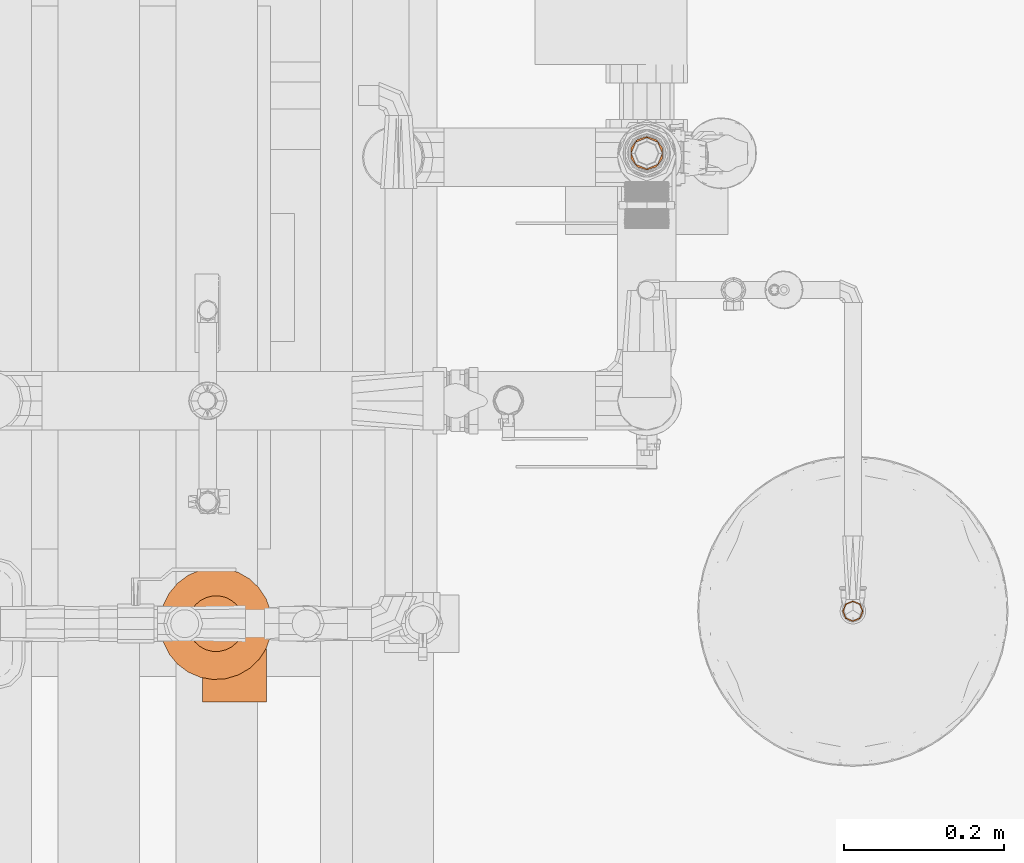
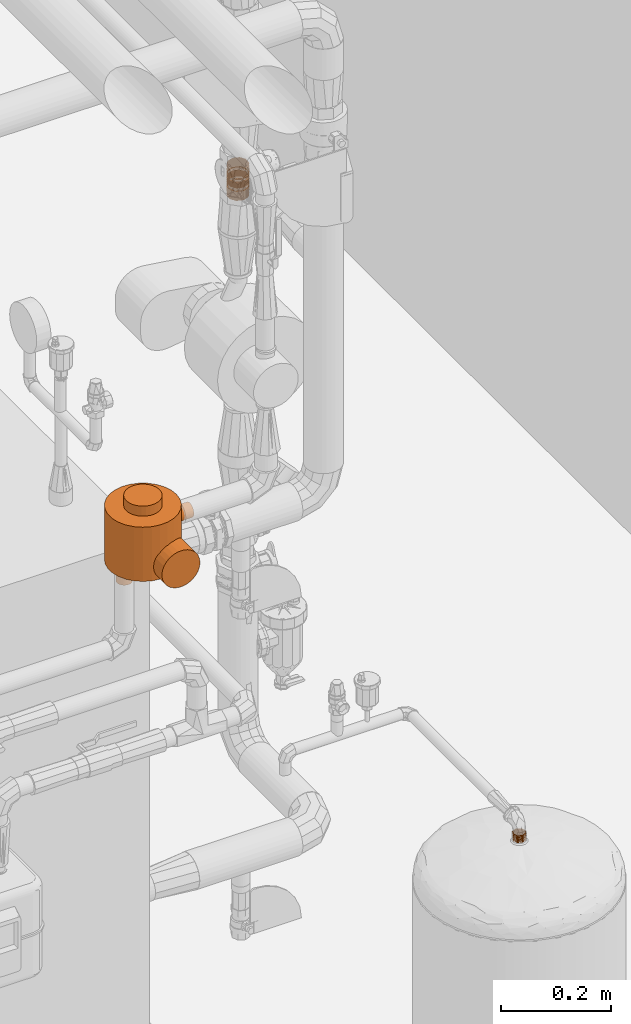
# One storey, part 41 of 43: 106 proxies.
"""IFC2X3 building model written with IfcOpenShell, lengths in millimetres."""

from ifc_helpers import new_model, entity, si_unit, converted_unit, derived_unit, direction, frame, frame_2d, origin, place, context, subcontext, project, spatial, circle, extrude, faceted_brep, source, transform, mapped, material, material_list, type_object, type_shapes, element, save


model = new_model("IFC2X3")

# Units and contexts
model_context = context("Model", 3, precision=0.01, world=origin(), true_north=direction((6.123031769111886e-17, 1.0)))
body_context = subcontext(model_context, "Body", "Model", "MODEL_VIEW")
ifc_project = project(units=[si_unit("LENGTHUNIT", "METRE", prefix="MILLI"), si_unit("AREAUNIT", "SQUARE_METRE"), si_unit("VOLUMEUNIT", "CUBIC_METRE"), converted_unit("PLANEANGLEUNIT", "DEGREE", entity("IfcRatioMeasure", 0.017453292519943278), si_unit("PLANEANGLEUNIT", "RADIAN"), dimensions=[0, 0, 0, 0, 0, 0, 0]), si_unit("MASSUNIT", "GRAM", prefix="KILO"), derived_unit("MASSDENSITYUNIT", [(si_unit("MASSUNIT", "GRAM", prefix="KILO"), 1), (si_unit("LENGTHUNIT", "METRE"), -3)]), derived_unit("MOMENTOFINERTIAUNIT", [(si_unit("LENGTHUNIT", "METRE"), 4)]), si_unit("TIMEUNIT", "SECOND"), si_unit("FREQUENCYUNIT", "HERTZ"), si_unit("THERMODYNAMICTEMPERATUREUNIT", "DEGREE_CELSIUS"), derived_unit("THERMALTRANSMITTANCEUNIT", [(si_unit("MASSUNIT", "GRAM", prefix="KILO"), 1), (si_unit("THERMODYNAMICTEMPERATUREUNIT", "KELVIN"), -1), (si_unit("TIMEUNIT", "SECOND"), -3)]), derived_unit("VOLUMETRICFLOWRATEUNIT", [(si_unit("LENGTHUNIT", "METRE"), 3), (si_unit("TIMEUNIT", "SECOND"), -1)]), derived_unit("MASSFLOWRATEUNIT", [(si_unit("MASSUNIT", "GRAM", prefix="KILO"), 1), (si_unit("TIMEUNIT", "SECOND"), -1)]), derived_unit("ROTATIONALFREQUENCYUNIT", [(si_unit("TIMEUNIT", "SECOND"), -1)]), si_unit("ELECTRICCURRENTUNIT", "AMPERE"), si_unit("ELECTRICVOLTAGEUNIT", "VOLT"), si_unit("POWERUNIT", "WATT"), si_unit("FORCEUNIT", "NEWTON", prefix="KILO"), si_unit("ILLUMINANCEUNIT", "LUX"), si_unit("LUMINOUSFLUXUNIT", "LUMEN"), si_unit("LUMINOUSINTENSITYUNIT", "CANDELA"), derived_unit("USERDEFINED", [(si_unit("MASSUNIT", "GRAM", prefix="KILO"), -1), (si_unit("LENGTHUNIT", "METRE"), -2), (si_unit("TIMEUNIT", "SECOND"), 3), (si_unit("LUMINOUSFLUXUNIT", "LUMEN"), 1)]), derived_unit("SOUNDPOWERUNIT", [(si_unit("MASSUNIT", "GRAM", prefix="KILO"), 1), (si_unit("LENGTHUNIT", "METRE"), 2), (si_unit("TIMEUNIT", "SECOND"), -3)]), derived_unit("SOUNDPRESSUREUNIT", [(si_unit("MASSUNIT", "GRAM", prefix="KILO"), 1), (si_unit("LENGTHUNIT", "METRE"), -1), (si_unit("TIMEUNIT", "SECOND"), -2)]), derived_unit("LINEARVELOCITYUNIT", [(si_unit("LENGTHUNIT", "METRE"), 1), (si_unit("TIMEUNIT", "SECOND"), -1)]), si_unit("PRESSUREUNIT", "PASCAL"), derived_unit("USERDEFINED", [(si_unit("LENGTHUNIT", "METRE"), -2), (si_unit("MASSUNIT", "GRAM", prefix="KILO"), 1), (si_unit("TIMEUNIT", "SECOND"), -2)]), derived_unit("LINEARFORCEUNIT", [(si_unit("MASSUNIT", "GRAM", prefix="KILO"), 1), (si_unit("LENGTHUNIT", "METRE"), 1), (si_unit("TIMEUNIT", "SECOND"), -2), (si_unit("LENGTHUNIT", "METRE"), -1)]), derived_unit("PLANARFORCEUNIT", [(si_unit("MASSUNIT", "GRAM", prefix="KILO"), 1), (si_unit("LENGTHUNIT", "METRE"), 1), (si_unit("TIMEUNIT", "SECOND"), -2), (si_unit("LENGTHUNIT", "METRE"), -2)])], contexts=[model_context])

# Site, building, storey
site_placement = place(None, origin())
site = spatial("IfcSite", under=ifc_project, at=site_placement, Name="Default", CompositionType="ELEMENT")
building_placement = place(site_placement, origin())
building = spatial("IfcBuilding", under=site, at=building_placement, CompositionType="ELEMENT")
storey_placement = place(building_placement, frame((0.0, 0.0, 270.0)))
storey = spatial("IfcBuildingStorey", under=building, at=storey_placement, Name="Niveau 0", CompositionType="ELEMENT", Elevation=270.0)

# Proxies
ifc_material_1 = material(Name="Copper Conex")
building_element_proxy_type_1 = type_object("IfcBuildingElementProxyType", Name="Male:Male", PredefinedType="NOTDEFINED", material=ifc_material_1)
shared_shape_1 = source(origin(), body_context, "Body", "Brep", [
    faceted_brep([(0.0, 12.317039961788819, -16.952951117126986), (0.907000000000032, 13.706579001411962, -13.706579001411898), (0.907000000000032, 10.27993425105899, -15.125941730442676), (0.907000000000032, 10.279934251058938, 15.125941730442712), (0.907000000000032, 13.706579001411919, 13.706579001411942), (0.0, 12.317039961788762, 16.95295111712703), (0.907000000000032, 6.8532895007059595, 16.545304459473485), (0.907000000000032, 8.65036935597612, 15.800929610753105), (0.907000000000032, 6.853289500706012, -16.54530445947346), (0.0, 6.158519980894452, -18.953975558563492), (0.0, 8.539941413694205, -18.180204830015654), (0.0, 9.237779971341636, -17.953463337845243), (0.0, 16.123214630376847, 11.71420111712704), (0.907000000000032, 15.125941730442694, 10.279934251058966), (0.907000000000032, 16.545304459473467, 6.853289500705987), (0.0, 0.0, 20.955), (0.907000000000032, 3.4266447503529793, 17.964667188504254), (0.0, 6.158519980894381, 18.953975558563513), (0.0, 19.929389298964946, 0.0), (0.907000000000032, 17.964667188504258, -3.426644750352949), (0.0, 19.929389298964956, -6.4754511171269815), (0.0, 19.929389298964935, 6.47545111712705), (0.907000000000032, 17.964667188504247, 3.4266447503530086), (0.907000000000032, 19.384029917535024, 0.0), (0.0, 14.220127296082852, -14.33357611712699), (0.0, 16.123214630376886, -11.714201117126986), (0.907000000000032, 16.545304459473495, -6.8532895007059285), (0.0, 0.0, -20.955), (0.907000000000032, 3.426644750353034, -17.964667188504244), (0.907000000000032, 0.0, -19.384029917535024), (0.907000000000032, 15.125941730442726, -10.279934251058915), (0.0, 4.7628428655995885, -19.407458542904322), (0.907000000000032, 0.0, 19.384029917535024), (0.907000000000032, 4.32518467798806, 17.592479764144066), (0.0, -12.317039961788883, 16.952951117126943), (0.907000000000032, -13.706579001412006, 13.706579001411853), (0.907000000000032, -10.279934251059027, 15.125941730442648), (0.907000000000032, -10.279934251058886, -15.125941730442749), (0.907000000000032, -13.706579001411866, -13.706579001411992), (0.0, -12.317039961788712, -16.952951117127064), (0.907000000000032, -6.8532895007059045, -16.545304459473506), (0.907000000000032, -8.650369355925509, -15.800929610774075), (0.907000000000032, -6.853289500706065, 16.54530445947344), (0.0, -6.158519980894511, 18.953975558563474), (0.0, -8.539941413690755, 18.180204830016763), (0.0, -9.237779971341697, 17.953463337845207), (0.0, -16.123214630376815, -11.714201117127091), (0.907000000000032, -15.125941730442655, -10.279934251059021), (0.907000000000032, -16.545304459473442, -6.853289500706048), (0.907000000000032, -3.4266447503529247, -17.964667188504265), (0.0, -6.158519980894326, -18.95397555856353), (0.0, -19.929389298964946, 0.0), (0.907000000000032, -17.964667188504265, 3.4266447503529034), (0.0, -19.929389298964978, 6.475451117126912), (0.0, -19.929389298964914, -6.475451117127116), (0.907000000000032, -17.964667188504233, -3.4266447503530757), (0.907000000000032, -19.384029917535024, 0.0), (0.0, -14.220127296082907, 14.333576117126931), (0.0, -16.123214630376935, 11.714201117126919), (0.907000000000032, -16.545304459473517, 6.853289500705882), (0.907000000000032, -3.426644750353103, 17.96466718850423), (0.907000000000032, -15.125941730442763, 10.279934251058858), (0.0, -4.762842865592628, 19.40745854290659), (0.907000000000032, -4.325184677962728, -17.59247976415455), (-0.907000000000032, 10.279934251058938, 15.125941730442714), (-0.907000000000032, 6.8532895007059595, 16.545304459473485), (-0.907000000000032, 13.706579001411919, 13.706579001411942), (-0.907000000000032, 13.706579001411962, -13.706579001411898), (-0.907000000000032, 10.279934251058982, -15.12594173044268), (-0.907000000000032, 16.54530445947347, 6.853289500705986), (-0.907000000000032, 15.125941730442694, 10.279934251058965), (-0.907000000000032, 16.545304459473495, -6.853289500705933), (-0.907000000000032, 17.964667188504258, -3.426644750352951), (-0.907000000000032, 3.426644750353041, -17.964667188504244), (-0.907000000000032, 0.0, -19.384029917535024), (-0.907000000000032, 15.125941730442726, -10.279934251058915), (-0.907000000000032, 19.384029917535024, 0.0), (-0.907000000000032, 6.853289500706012, -16.54530445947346), (-0.907000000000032, 3.4266447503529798, 17.964667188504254), (-0.907000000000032, 0.0, 19.384029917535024), (-0.907000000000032, 17.964667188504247, 3.4266447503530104), (-0.907000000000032, 4.325184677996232, 17.59247976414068), (-0.907000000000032, 4.3251846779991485, -17.592479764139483), (-0.907000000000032, -10.279934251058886, -15.125941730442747), (-0.907000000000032, -6.8532895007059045, -16.545304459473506), (-0.907000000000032, -13.706579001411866, -13.706579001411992), (-0.907000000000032, -13.706579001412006, 13.706579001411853), (-0.907000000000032, -10.279934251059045, 15.125941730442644), (-0.907000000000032, -16.545304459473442, -6.853289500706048), (-0.907000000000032, -15.125941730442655, -10.279934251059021), (-0.907000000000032, -16.54530445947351, 6.853289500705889), (-0.907000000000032, -17.964667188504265, 3.4266447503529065), (-0.907000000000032, -3.426644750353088, 17.964667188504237), (-0.907000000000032, -15.125941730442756, 10.279934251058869), (-0.907000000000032, -19.384029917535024, 0.0), (-0.907000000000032, -6.853289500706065, 16.54530445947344), (-0.907000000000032, -3.4266447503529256, -17.964667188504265), (-0.907000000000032, -17.96466718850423, -3.426644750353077), (-0.907000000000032, -4.3251846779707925, -17.59247976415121), (-0.907000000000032, -4.325184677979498, 17.59247976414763)], [[[0, 1, 2]], [[3, 4, 5, 6, 7]], [[8, 9, 10, 11]], [[12, 4, 13, 14]], [[15, 16, 17]], [[18, 19, 20]], [[21, 22, 18]], [[18, 22, 23]], [[1, 0, 24, 25]], [[21, 14, 22]], [[19, 26, 20]], [[27, 28, 29]], [[25, 26, 30, 1]], [[28, 27, 31, 9]], [[12, 5, 4]], [[14, 21, 12]], [[16, 15, 32]], [[19, 18, 23]], [[6, 5, 17]], [[8, 28, 9]], [[0, 2, 11]], [[2, 8, 11]], [[26, 25, 20]], [[17, 16, 33, 6]], [[34, 35, 36]], [[37, 38, 39, 40, 41]], [[42, 43, 44, 45]], [[46, 38, 47, 48]], [[27, 49, 50]], [[51, 52, 53]], [[54, 55, 51]], [[51, 55, 56]], [[35, 34, 57, 58]], [[54, 48, 55]], [[52, 59, 53]], [[15, 60, 32]], [[58, 59, 61, 35]], [[60, 15, 62, 43]], [[46, 39, 38]], [[48, 54, 46]], [[49, 27, 29]], [[52, 51, 56]], [[40, 39, 50]], [[42, 60, 43]], [[34, 36, 45]], [[36, 42, 45]], [[59, 58, 53]], [[50, 49, 63, 40]], [[64, 65, 5, 66]], [[67, 25, 24, 0]], [[5, 65, 17]], [[67, 0, 68]], [[12, 69, 70, 66]], [[20, 71, 72]], [[71, 20, 25]], [[73, 27, 74]], [[69, 12, 21]], [[75, 71, 25, 67]], [[76, 18, 72]], [[77, 10, 9, 31]], [[78, 15, 17]], [[78, 79, 15]], [[68, 10, 77]], [[18, 20, 72]], [[18, 80, 21]], [[66, 5, 12]], [[80, 18, 76]], [[80, 69, 21]], [[17, 65, 81, 78]], [[68, 0, 11, 10]], [[27, 73, 31]], [[31, 73, 82, 77]], [[83, 84, 39, 85]], [[86, 58, 57, 34]], [[39, 84, 50]], [[86, 34, 87]], [[46, 88, 89, 85]], [[53, 90, 91]], [[90, 53, 58]], [[92, 15, 79]], [[88, 46, 54]], [[93, 90, 58, 86]], [[94, 51, 91]], [[95, 44, 43, 62]], [[96, 27, 50]], [[96, 74, 27]], [[87, 44, 95]], [[51, 53, 91]], [[51, 97, 54]], [[85, 39, 46]], [[97, 51, 94]], [[97, 88, 54]], [[50, 84, 98, 96]], [[87, 34, 45, 44]], [[15, 92, 62]], [[62, 92, 99, 95]], [[79, 78, 81, 65, 64, 66, 4, 3, 7, 6, 33, 16, 32]], [[70, 69, 80, 76, 23, 22, 14, 13, 4, 66]], [[8, 2, 1, 67, 68, 77, 82, 73, 74, 29, 28]], [[19, 23, 76, 72, 71, 75, 67, 1, 30, 26]], [[74, 96, 98, 84, 83, 85, 38, 37, 41, 40, 63, 49, 29]], [[89, 88, 97, 94, 56, 55, 48, 47, 38, 85]], [[42, 36, 35, 86, 87, 95, 99, 92, 79, 32, 60]], [[52, 56, 94, 91, 90, 93, 86, 35, 61, 59]]]),
])
type_shapes(building_element_proxy_type_1, [shared_shape_1])
for number, where, z_axis, x_axis, name in (
    (1, (-1682.0, -9305.0, 1815.8592340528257), (0.0, 1.0, 0.0), (0.0, 0.0, 1.0), "Male:Male"),
    (2, (-1682.0, -9305.0, 1799.5332340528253), (0.0, 1.0, 0.0), (0.0, 0.0, 1.0), "Male:Male"),
    (3, (-1682.0, -9305.0, 1797.7192340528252), (0.0, 1.0, 0.0), (0.0, 0.0, 1.0), "Male:Male"),
    (4, (-1682.0, -9305.0, 1795.905234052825), (0.0, 1.0, 0.0), (0.0, 0.0, 1.0), "Male:Male"),
    (5, (-1682.0, -9305.0, 1806.7892340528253), (0.0, 1.0, 0.0), (0.0, 0.0, 1.0), "Male:Male"),
    (6, (-1682.0, -9305.0, 1804.9752340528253), (0.0, 1.0, 0.0), (0.0, 0.0, 1.0), "Male:Male"),
    (7, (-1682.0, -9305.0, 1803.1612340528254), (0.0, 1.0, 0.0), (0.0, 0.0, 1.0), "Male:Male"),
    (8, (-1682.0, -9305.0, 1801.3472340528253), (0.0, 1.0, 0.0), (0.0, 0.0, 1.0), "Male:Male"),
    (9, (-1682.0, -9305.0, 1823.6372340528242), (0.0, 1.0, 0.0), (0.0, 0.0, -1.0), "Male:Male"),
    (10, (-1682.0, -9305.0, 1839.9632340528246), (0.0, 1.0, 0.0), (0.0, 0.0, -1.0), "Male:Male"),
    (11, (-1682.0, -9305.0, 1841.7772340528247), (0.0, 1.0, 0.0), (0.0, 0.0, -1.0), "Male:Male"),
    (12, (-1682.0, -9305.0, 1843.5912340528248), (0.0, 1.0, 0.0), (0.0, 0.0, -1.0), "Male:Male"),
    (13, (-1682.0, -9305.0, 1832.7072340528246), (0.0, 1.0, 0.0), (0.0, 0.0, -1.0), "Male:Male"),
    (14, (-1682.0, -9305.0, 1834.5212340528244), (0.0, 1.0, 0.0), (0.0, 0.0, -1.0), "Male:Male"),
    (15, (-1682.0, -9305.0, 1836.3352340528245), (0.0, 1.0, 0.0), (0.0, 0.0, -1.0), "Male:Male"),
    (16, (-1682.0, -9305.0, 1838.1492340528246), (0.0, 1.0, 0.0), (0.0, 0.0, -1.0), "Male:Male"),
    (17, (-1682.0, -9305.0, 1808.6032340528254), (0.0, 1.0, 0.0), (0.0, 0.0, 1.0), "Male:Male"),
    (18, (-1682.0, -9305.0, 1830.8932340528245), (0.0, 1.0, 0.0), (0.0, 0.0, -1.0), "Male:Male"),
    (19, (-1682.0, -9305.0, 1814.0452340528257), (0.0, 1.0, 0.0), (0.0, 0.0, 1.0), "Male:Male"),
    (20, (-1682.0, -9305.0, 1812.2312340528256), (0.0, 1.0, 0.0), (0.0, 0.0, 1.0), "Male:Male"),
    (21, (-1682.0, -9305.0, 1810.4172340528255), (0.0, 1.0, 0.0), (0.0, 0.0, 1.0), "Male:Male"),
    (22, (-1682.0, -9305.0, 1825.4512340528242), (0.0, 1.0, 0.0), (0.0, 0.0, -1.0), "Male:Male"),
    (23, (-1682.0, -9305.0, 1827.2652340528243), (0.0, 1.0, 0.0), (0.0, 0.0, -1.0), "Male:Male"),
    (24, (-1682.0, -9305.0, 1829.0792340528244), (0.0, 1.0, 0.0), (0.0, 0.0, -1.0), "Male:Male"),
    (25, (-1682.0, -9305.0, 1822.5592340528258), (0.0, -1.0, 0.0), (0.0, 0.0, 1.0), "Male:Male"),
    (26, (-1682.0, -9305.0, 1806.2332340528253), (0.0, -1.0, 0.0), (0.0, 0.0, 1.0), "Male:Male"),
    (27, (-1682.0, -9305.0, 1804.4192340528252), (0.0, -1.0, 0.0), (0.0, 0.0, 1.0), "Male:Male"),
    (28, (-1682.0, -9305.0, 1802.6052340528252), (0.0, -1.0, 0.0), (0.0, 0.0, 1.0), "Male:Male"),
    (29, (-1682.0, -9305.0, 1813.4892340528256), (0.0, -1.0, 0.0), (0.0, 0.0, 1.0), "Male:Male"),
    (30, (-1682.0, -9305.0, 1811.6752340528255), (0.0, -1.0, 0.0), (0.0, 0.0, 1.0), "Male:Male"),
    (31, (-1682.0, -9305.0, 1809.8612340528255), (0.0, -1.0, 0.0), (0.0, 0.0, 1.0), "Male:Male"),
    (32, (-1682.0, -9305.0, 1808.0472340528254), (0.0, -1.0, 0.0), (0.0, 0.0, 1.0), "Male:Male"),
    (33, (-1682.0, -9305.0, 1830.3372340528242), (0.0, -1.0, 0.0), (0.0, 0.0, -1.0), "Male:Male"),
    (34, (-1682.0, -9305.0, 1846.663234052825), (0.0, -1.0, 0.0), (0.0, 0.0, -1.0), "Male:Male"),
    (35, (-1682.0, -9305.0, 1848.4772340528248), (0.0, -1.0, 0.0), (0.0, 0.0, -1.0), "Male:Male"),
    (36, (-1682.0, -9305.0, 1850.2912340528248), (0.0, -1.0, 0.0), (0.0, 0.0, -1.0), "Male:Male"),
    (37, (-1682.0, -9305.0, 1839.4072340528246), (0.0, -1.0, 0.0), (0.0, 0.0, -1.0), "Male:Male"),
    (38, (-1682.0, -9305.0, 1841.2212340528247), (0.0, -1.0, 0.0), (0.0, 0.0, -1.0), "Male:Male"),
    (39, (-1682.0, -9305.0, 1843.0352340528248), (0.0, -1.0, 0.0), (0.0, 0.0, -1.0), "Male:Male"),
    (40, (-1682.0, -9305.0, 1844.8492340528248), (0.0, -1.0, 0.0), (0.0, 0.0, -1.0), "Male:Male"),
    (41, (-1682.0, -9305.0, 1815.3032340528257), (0.0, -1.0, 0.0), (0.0, 0.0, 1.0), "Male:Male"),
    (42, (-1682.0, -9305.0, 1837.5932340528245), (0.0, -1.0, 0.0), (0.0, 0.0, -1.0), "Male:Male"),
    (43, (-1682.0, -9305.0, 1820.7452340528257), (0.0, -1.0, 0.0), (0.0, 0.0, 1.0), "Male:Male"),
    (44, (-1682.0, -9305.0, 1818.9312340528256), (0.0, -1.0, 0.0), (0.0, 0.0, 1.0), "Male:Male"),
    (45, (-1682.0, -9305.0, 1817.1172340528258), (0.0, -1.0, 0.0), (0.0, 0.0, 1.0), "Male:Male"),
    (46, (-1682.0, -9305.0, 1832.1512340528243), (0.0, -1.0, 0.0), (0.0, 0.0, -1.0), "Male:Male"),
    (47, (-1682.0, -9305.0, 1833.9652340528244), (0.0, -1.0, 0.0), (0.0, 0.0, -1.0), "Male:Male"),
    (48, (-1682.0, -9305.0, 1835.7792340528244), (0.0, -1.0, 0.0), (0.0, 0.0, -1.0), "Male:Male"),
    (49, (-1682.0, -9305.0, 1829.259234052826), (0.0, 1.0, 0.0), (0.0, 0.0, 1.0), "Male:Male"),
    (50, (-1682.0, -9305.0, 1812.9332340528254), (0.0, 1.0, 0.0), (0.0, 0.0, 1.0), "Male:Male"),
    (51, (-1682.0, -9305.0, 1811.1192340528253), (0.0, 1.0, 0.0), (0.0, 0.0, 1.0), "Male:Male"),
    (52, (-1682.0, -9305.0, 1809.3052340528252), (0.0, 1.0, 0.0), (0.0, 0.0, 1.0), "Male:Male"),
    (53, (-1682.0, -9305.0, 1820.1892340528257), (0.0, 1.0, 0.0), (0.0, 0.0, 1.0), "Male:Male"),
    (54, (-1682.0, -9305.0, 1818.3752340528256), (0.0, 1.0, 0.0), (0.0, 0.0, 1.0), "Male:Male"),
    (55, (-1682.0, -9305.0, 1816.5612340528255), (0.0, 1.0, 0.0), (0.0, 0.0, 1.0), "Male:Male"),
    (56, (-1682.0, -9305.0, 1814.7472340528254), (0.0, 1.0, 0.0), (0.0, 0.0, 1.0), "Male:Male"),
    (57, (-1682.0, -9305.0, 1837.0372340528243), (0.0, 1.0, 0.0), (0.0, 0.0, -1.0), "Male:Male"),
    (58, (-1682.0, -9305.0, 1853.363234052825), (0.0, 1.0, 0.0), (0.0, 0.0, -1.0), "Male:Male"),
    (59, (-1682.0, -9305.0, 1855.177234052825), (0.0, 1.0, 0.0), (0.0, 0.0, -1.0), "Male:Male"),
    (60, (-1682.0, -9305.0, 1856.9912340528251), (0.0, 1.0, 0.0), (0.0, 0.0, -1.0), "Male:Male"),
    (61, (-1682.0, -9305.0, 1846.1072340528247), (0.0, 1.0, 0.0), (0.0, 0.0, -1.0), "Male:Male"),
    (62, (-1682.0, -9305.0, 1847.9212340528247), (0.0, 1.0, 0.0), (0.0, 0.0, -1.0), "Male:Male"),
    (63, (-1682.0, -9305.0, 1849.7352340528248), (0.0, 1.0, 0.0), (0.0, 0.0, -1.0), "Male:Male"),
    (64, (-1682.0, -9305.0, 1851.5492340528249), (0.0, 1.0, 0.0), (0.0, 0.0, -1.0), "Male:Male"),
    (65, (-1682.0, -9305.0, 1822.0032340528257), (0.0, 1.0, 0.0), (0.0, 0.0, 1.0), "Male:Male"),
    (66, (-1682.0, -9305.0, 1844.2932340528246), (0.0, 1.0, 0.0), (0.0, 0.0, -1.0), "Male:Male"),
    (67, (-1682.0, -9305.0, 1827.445234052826), (0.0, 1.0, 0.0), (0.0, 0.0, 1.0), "Male:Male"),
    (68, (-1682.0, -9305.0, 1825.631234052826), (0.0, 1.0, 0.0), (0.0, 0.0, 1.0), "Male:Male"),
    (69, (-1682.0, -9305.0, 1823.8172340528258), (0.0, 1.0, 0.0), (0.0, 0.0, 1.0), "Male:Male"),
    (70, (-1682.0, -9305.0, 1838.8512340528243), (0.0, 1.0, 0.0), (0.0, 0.0, -1.0), "Male:Male"),
    (71, (-1682.0, -9305.0, 1840.6652340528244), (0.0, 1.0, 0.0), (0.0, 0.0, -1.0), "Male:Male"),
    (72, (-1682.0, -9305.0, 1842.4792340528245), (0.0, 1.0, 0.0), (0.0, 0.0, -1.0), "Male:Male"),
    (73, (-1682.0, -9305.0, 1835.959234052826), (0.0, -1.0, 0.0), (0.0, 0.0, 1.0), "Male:Male"),
    (74, (-1682.0, -9305.0, 1819.6332340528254), (0.0, -1.0, 0.0), (0.0, 0.0, 1.0), "Male:Male"),
    (75, (-1682.0, -9305.0, 1817.8192340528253), (0.0, -1.0, 0.0), (0.0, 0.0, 1.0), "Male:Male"),
    (76, (-1682.0, -9305.0, 1816.0052340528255), (0.0, -1.0, 0.0), (0.0, 0.0, 1.0), "Male:Male"),
    (77, (-1682.0, -9305.0, 1826.8892340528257), (0.0, -1.0, 0.0), (0.0, 0.0, 1.0), "Male:Male"),
    (78, (-1682.0, -9305.0, 1825.0752340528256), (0.0, -1.0, 0.0), (0.0, 0.0, 1.0), "Male:Male"),
    (79, (-1682.0, -9305.0, 1823.2612340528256), (0.0, -1.0, 0.0), (0.0, 0.0, 1.0), "Male:Male"),
    (80, (-1682.0, -9305.0, 1821.4472340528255), (0.0, -1.0, 0.0), (0.0, 0.0, 1.0), "Male:Male"),
    (81, (-1682.0, -9305.0, 1843.7372340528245), (0.0, -1.0, 0.0), (0.0, 0.0, -1.0), "Male:Male"),
    (82, (-1682.0, -9305.0, 1860.063234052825), (0.0, -1.0, 0.0), (0.0, 0.0, -1.0), "Male:Male"),
    (83, (-1682.0, -9305.0, 1861.877234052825), (0.0, -1.0, 0.0), (0.0, 0.0, -1.0), "Male:Male"),
    (84, (-1682.0, -9305.0, 1863.6912340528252), (0.0, -1.0, 0.0), (0.0, 0.0, -1.0), "Male:Male"),
    (85, (-1682.0, -9305.0, 1852.8072340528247), (0.0, -1.0, 0.0), (0.0, 0.0, -1.0), "Male:Male"),
    (86, (-1682.0, -9305.0, 1854.6212340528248), (0.0, -1.0, 0.0), (0.0, 0.0, -1.0), "Male:Male"),
    (87, (-1682.0, -9305.0, 1856.4352340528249), (0.0, -1.0, 0.0), (0.0, 0.0, -1.0), "Male:Male"),
    (88, (-1682.0, -9305.0, 1858.249234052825), (0.0, -1.0, 0.0), (0.0, 0.0, -1.0), "Male:Male"),
    (89, (-1682.0, -9305.0, 1828.7032340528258), (0.0, -1.0, 0.0), (0.0, 0.0, 1.0), "Male:Male"),
    (90, (-1682.0, -9305.0, 1850.9932340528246), (0.0, -1.0, 0.0), (0.0, 0.0, -1.0), "Male:Male"),
    (91, (-1682.0, -9305.0, 1834.145234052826), (0.0, -1.0, 0.0), (0.0, 0.0, 1.0), "Male:Male"),
    (92, (-1682.0, -9305.0, 1832.331234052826), (0.0, -1.0, 0.0), (0.0, 0.0, 1.0), "Male:Male"),
    (93, (-1682.0, -9305.0, 1830.5172340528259), (0.0, -1.0, 0.0), (0.0, 0.0, 1.0), "Male:Male"),
    (94, (-1682.0, -9305.0, 1845.5512340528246), (0.0, -1.0, 0.0), (0.0, 0.0, -1.0), "Male:Male"),
    (95, (-1682.0, -9305.0, 1847.3652340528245), (0.0, -1.0, 0.0), (0.0, 0.0, -1.0), "Male:Male"),
    (96, (-1682.0, -9305.0, 1849.1792340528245), (0.0, -1.0, 0.0), (0.0, 0.0, -1.0), "Male:Male"),
):
    element("IfcBuildingElementProxy", number, at=place(storey_placement, frame(where, z_axis=z_axis, x_axis=x_axis)), inside=storey, type_object=building_element_proxy_type_1, material=ifc_material_1, Name=name, ObjectType="Male:Male", context=body_context, shape_type="MappedRepresentation", body=[
        mapped(shared_shape_1, transform((0.0, 0.0, 0.0), scale=1.0)),
    ])
building_element_proxy_type_2 = type_object("IfcBuildingElementProxyType", Name="Male:Male", PredefinedType="NOTDEFINED", material=ifc_material_1)
shared_shape_2 = source(origin(), body_context, "Body", "Brep", [
    faceted_brep([(0.907000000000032, 0.0, 11.649529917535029), (0.907000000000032, 8.237461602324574, 8.23746160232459), (0.0, 9.348305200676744, 9.348305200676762), (0.0, 0.0, 13.220500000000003), (0.907000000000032, 11.649529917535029, 0.0), (0.0, 13.220500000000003, 0.0), (0.907000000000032, 8.2374616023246, -8.237461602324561), (0.907000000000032, 0.0, -11.649529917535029), (0.0, 0.0, -13.220500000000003), (0.0, 9.348305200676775, -9.348305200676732), (0.907000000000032, -8.237461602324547, -8.237461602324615), (0.0, -9.348305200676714, -9.348305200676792), (0.907000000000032, -11.649529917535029, 0.0), (0.0, -13.220500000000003, 0.0), (0.907000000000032, -8.237461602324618, 8.237461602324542), (0.0, -9.348305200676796, 9.34830520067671), (-0.907000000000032, 8.237461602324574, 8.23746160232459), (-0.907000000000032, 0.0, 11.649529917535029), (-0.907000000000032, 11.649529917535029, 0.0), (-0.907000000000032, 8.2374616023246, -8.237461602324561), (-0.907000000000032, 0.0, -11.649529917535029), (-0.907000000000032, -8.237461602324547, -8.237461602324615), (-0.907000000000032, -11.649529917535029, 0.0), (-0.907000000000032, -8.237461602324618, 8.237461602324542)], [[[0, 1, 2, 3]], [[2, 1, 4, 5]], [[6, 7, 8, 9]], [[6, 9, 5, 4]], [[7, 10, 11, 8]], [[11, 10, 12, 13]], [[14, 0, 3, 15]], [[14, 15, 13, 12]], [[3, 2, 16, 17]], [[16, 2, 5, 18]], [[5, 9, 19, 18]], [[9, 8, 20, 19]], [[8, 11, 21, 20]], [[21, 11, 13, 22]], [[13, 15, 23, 22]], [[15, 3, 17, 23]], [[17, 16, 1, 0]], [[4, 1, 16, 18]], [[19, 20, 7, 6]], [[18, 19, 6, 4]], [[20, 21, 10, 7]], [[12, 10, 21, 22]], [[23, 17, 0, 14]], [[22, 23, 14, 12]]]),
])
type_shapes(building_element_proxy_type_2, [shared_shape_2])
for number, where, z_axis, x_axis, name in (
    (97, (-1423.877099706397, -9878.487120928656, 640.3545354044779), (-1.0, 0.0, 0.0), (0.0, 0.0, 1.0), "Male:Male"),
    (98, (-1423.877099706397, -9878.487120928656, 631.2845354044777), (-1.0, 0.0, 0.0), (0.0, 0.0, 1.0), "Male:Male"),
    (99, (-1423.877099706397, -9878.487120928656, 629.4705354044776), (-1.0, 0.0, 0.0), (0.0, 0.0, 1.0), "Male:Male"),
    (100, (-1423.877099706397, -9878.487120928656, 627.6565354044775), (-1.0, 0.0, 0.0), (0.0, 0.0, 1.0), "Male:Male"),
    (101, (-1423.877099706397, -9878.487120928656, 625.8425354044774), (-1.0, 0.0, 0.0), (0.0, 0.0, 1.0), "Male:Male"),
    (102, (-1423.877099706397, -9878.487120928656, 634.9125354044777), (-1.0, 0.0, 0.0), (0.0, 0.0, 1.0), "Male:Male"),
    (103, (-1423.877099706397, -9878.487120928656, 633.0985354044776), (-1.0, 0.0, 0.0), (0.0, 0.0, 1.0), "Male:Male"),
    (104, (-1423.877099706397, -9878.487120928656, 638.5405354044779), (-1.0, 0.0, 0.0), (0.0, 0.0, 1.0), "Male:Male"),
    (105, (-1423.877099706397, -9878.487120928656, 636.7265354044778), (-1.0, 0.0, 0.0), (0.0, 0.0, 1.0), "Male:Male"),
):
    element("IfcBuildingElementProxy", number, at=place(storey_placement, frame(where, z_axis=z_axis, x_axis=x_axis)), inside=storey, type_object=building_element_proxy_type_2, material=ifc_material_1, Name=name, ObjectType="Male:Male", context=body_context, shape_type="MappedRepresentation", body=[
        mapped(shared_shape_2, transform((0.0, 0.0, 0.0), scale=1.0)),
    ])
ifc_material_2 = material(Name="Par défaut")
ifc_material_list_1 = material_list([ifc_material_2, ifc_material_2, ifc_material_2, ifc_material_2, ifc_material_2])
ifc_material_list_2 = material_list([ifc_material_2, ifc_material_2, ifc_material_2, ifc_material_2, ifc_material_2])
building_element_proxy_type_3 = type_object("IfcBuildingElementProxyType", Name="détendeur gaz:détendeur gaz", PredefinedType="NOTDEFINED", material=ifc_material_list_2)
shared_shape_3 = source(origin(), body_context, "Body", "SweptSolid", [
    extrude(circle(Radius=40.00000000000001, at=frame_2d((0.0, -1.7765788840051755e-13), x_axis=(1.0, 0.0))), frame((23.102771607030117, -98.03868646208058, 30.353396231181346), z_axis=(0.0, 1.0, 0.0), x_axis=(-1.0, 0.0, 0.0)), (0.0, 0.0, 1.0), 66.7065940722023),
    extrude(circle(Radius=35.0, at=frame_2d((-9.052471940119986e-16, -5.654406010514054e-14), x_axis=(1.0, 0.0))), frame((0.0, 0.0, 120.0)), (0.0, 0.0, 1.0), 22.24077801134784),
    extrude(circle(Radius=15.0, at=frame_2d((0.0, -2.537969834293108e-14), x_axis=(1.0, 0.0))), frame((58.50929070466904, 0.10215255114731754, 75.70619565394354), z_axis=(1.0, 0.0, 0.0), x_axis=(0.0, -1.0, 0.0)), (0.0, 0.0, 1.0), 39.93076517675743),
    extrude(circle(Radius=15.000000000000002, at=frame_2d((0.0, -2.4256117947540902e-14), x_axis=(1.0, 0.0))), frame((-39.348011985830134, -0.18046984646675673, -33.143292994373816)), (0.0, 0.0, 1.0), 51.10264975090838),
    extrude(circle(Radius=70.00000000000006, at=frame_2d((4.128297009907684e-17, -1.1308812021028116e-13), x_axis=(1.0, 0.0))), origin(), (0.0, 0.0, 1.0), 120.0),
])
type_shapes(building_element_proxy_type_3, [shared_shape_3])
proxy_placement = place(storey_placement, frame((-2221.332000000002, -9894.089173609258, 1533.4961842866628)))
element("IfcBuildingElementProxy", 106, at=proxy_placement, inside=storey, type_object=building_element_proxy_type_3, material=ifc_material_list_1, Name="détendeur gaz:détendeur gaz", ObjectType="détendeur gaz:détendeur gaz", context=body_context, shape_type="MappedRepresentation", body=[
    mapped(shared_shape_3, transform((0.0, 0.0, 0.0), scale=1.0)),
])

save(model, "model.ifc")
